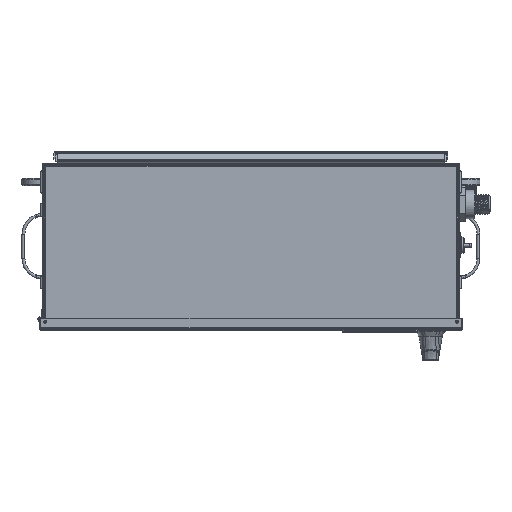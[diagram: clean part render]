
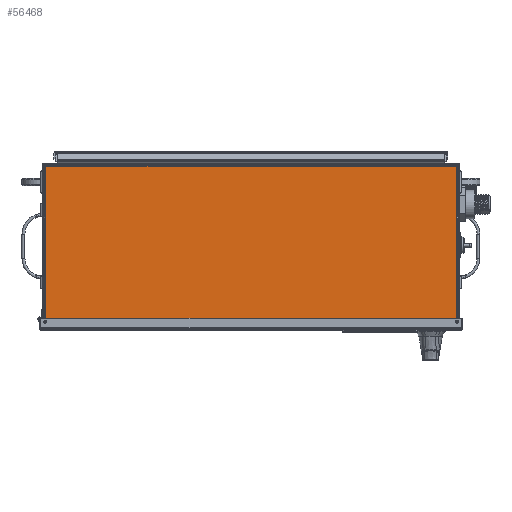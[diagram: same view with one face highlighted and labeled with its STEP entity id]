
A CAD part, top view. The second image highlights one B-rep face of the part: STEP entity #56468.
In plain terms, the highlighted planar face has unit normal (0, 0, 1).
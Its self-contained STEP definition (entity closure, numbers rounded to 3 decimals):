
#1850=PLANE('',#61009);
#6871=LINE('',#166324,#11027);
#6875=LINE('',#166341,#11031);
#6876=LINE('',#166348,#11032);
#6877=LINE('',#166349,#11033);
#6878=LINE('',#166351,#11034);
#6879=LINE('',#166352,#11035);
#11027=VECTOR('',#73269,39.37);
#11031=VECTOR('',#73281,39.37);
#11032=VECTOR('',#73288,39.37);
#11033=VECTOR('',#73289,39.37);
#11034=VECTOR('',#73290,39.37);
#11035=VECTOR('',#73291,39.37);
#15143=FACE_OUTER_BOUND('',#18269,.T.);
#18269=EDGE_LOOP('',(#46994,#46995,#46996,#46997,#46998,#46999));
#25635=VERTEX_POINT('',#166321);
#25636=VERTEX_POINT('',#166323);
#25641=VERTEX_POINT('',#166339);
#25643=VERTEX_POINT('',#166346);
#25644=VERTEX_POINT('',#166347);
#25645=VERTEX_POINT('',#166350);
#33023=EDGE_CURVE('',#25636,#25635,#6871,.T.);
#33031=EDGE_CURVE('',#25635,#25641,#6875,.T.);
#33033=EDGE_CURVE('',#25643,#25644,#6876,.T.);
#33034=EDGE_CURVE('',#25644,#25636,#6877,.T.);
#33035=EDGE_CURVE('',#25641,#25645,#6878,.T.);
#33036=EDGE_CURVE('',#25645,#25643,#6879,.T.);
#46994=ORIENTED_EDGE('',*,*,#33033,.T.);
#46995=ORIENTED_EDGE('',*,*,#33034,.T.);
#46996=ORIENTED_EDGE('',*,*,#33023,.T.);
#46997=ORIENTED_EDGE('',*,*,#33031,.T.);
#46998=ORIENTED_EDGE('',*,*,#33035,.T.);
#46999=ORIENTED_EDGE('',*,*,#33036,.T.);
#56468=ADVANCED_FACE('',(#15143),#1850,.T.);
#61009=AXIS2_PLACEMENT_3D('',#166345,#73286,#73287);
#73269=DIRECTION('',(1.,0.,0.));
#73281=DIRECTION('',(0.,1.,0.));
#73286=DIRECTION('center_axis',(0.,0.,
1.));
#73287=DIRECTION('ref_axis',(-1.,0.,0.));
#73288=DIRECTION('',(1.,0.,0.));
#73289=DIRECTION('',(1.,0.,0.));
#73290=DIRECTION('',(-1.,0.,0.));
#73291=DIRECTION('',(0.,-1.,0.));
#166321=CARTESIAN_POINT('',(14.297,-8.672,19.254));
#166323=CARTESIAN_POINT('',(13.902,-8.672,19.254));
#166324=CARTESIAN_POINT('',(-13.338,-8.672,19.254));
#166339=CARTESIAN_POINT('',(14.297,2.013,19.254));
#166341=CARTESIAN_POINT('',(14.297,-8.672,19.254));
#166345=CARTESIAN_POINT('Origin',(14.336,2.052,19.254));
#166346=CARTESIAN_POINT('',(-13.299,-8.672,19.254));
#166347=CARTESIAN_POINT('',(-12.904,-8.672,19.254));
#166348=CARTESIAN_POINT('',(-13.338,-8.672,19.254));
#166349=CARTESIAN_POINT('',(-12.904,-8.672,19.254));
#166350=CARTESIAN_POINT('',(-13.299,2.013,19.254));
#166351=CARTESIAN_POINT('',(14.336,2.013,19.254));
#166352=CARTESIAN_POINT('',(-13.299,2.013,19.254));
